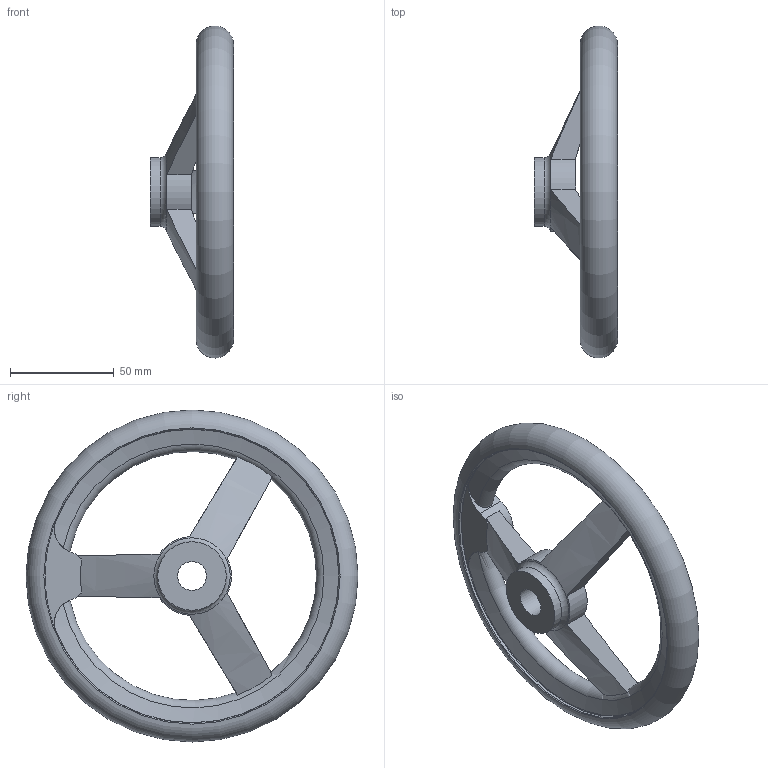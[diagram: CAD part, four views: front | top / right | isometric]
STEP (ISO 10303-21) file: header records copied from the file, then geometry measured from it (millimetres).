
FILE_DESCRIPTION( ( 'STEP AP203' ), '1' );
FILE_NAME( 'C:/Temp/Ganter_Step_05_03_2020/data/1_3/din_950/din_950_b/din_950_b_a/Handwheel DIN 950-GG-160-B14-A.stp', '2020-03-05T10:29:17', ( 'License CC BY-ND 4.0' ), ( 'CADENAS' ), ' ', 'PARTsolutions', ' ' );
FILE_SCHEMA( ( 'CONFIG_CONTROL_DESIGN' ) );
Length unit declared in the file: millimetre
Products named in the file (1): _Handwheel DIN 950-GG-160-B14-A
Bounding box: 40 x 159.99 x 159.99 mm (x, y, z)
Volume: 151999.9 mm3; surface area: 38973.3 mm2
Topology: 1 solids, 1 shells, 35 faces, 101 edges, 64 vertices
Faces by surface type: cylinder 11, plane 10, torus 10, cone 4
Full cylindrical faces by diameter (mm): 14 x1, 33 x2, 142 x2
Entity records: 1418 total; most frequent: CARTESIAN_POINT 551, ORIENTED_EDGE 166, DIRECTION 162, EDGE_CURVE 83, AXIS2_PLACEMENT_3D 76, VERTEX_POINT 61, EDGE_LOOP 53, FACE_OUTER_BOUND 47
